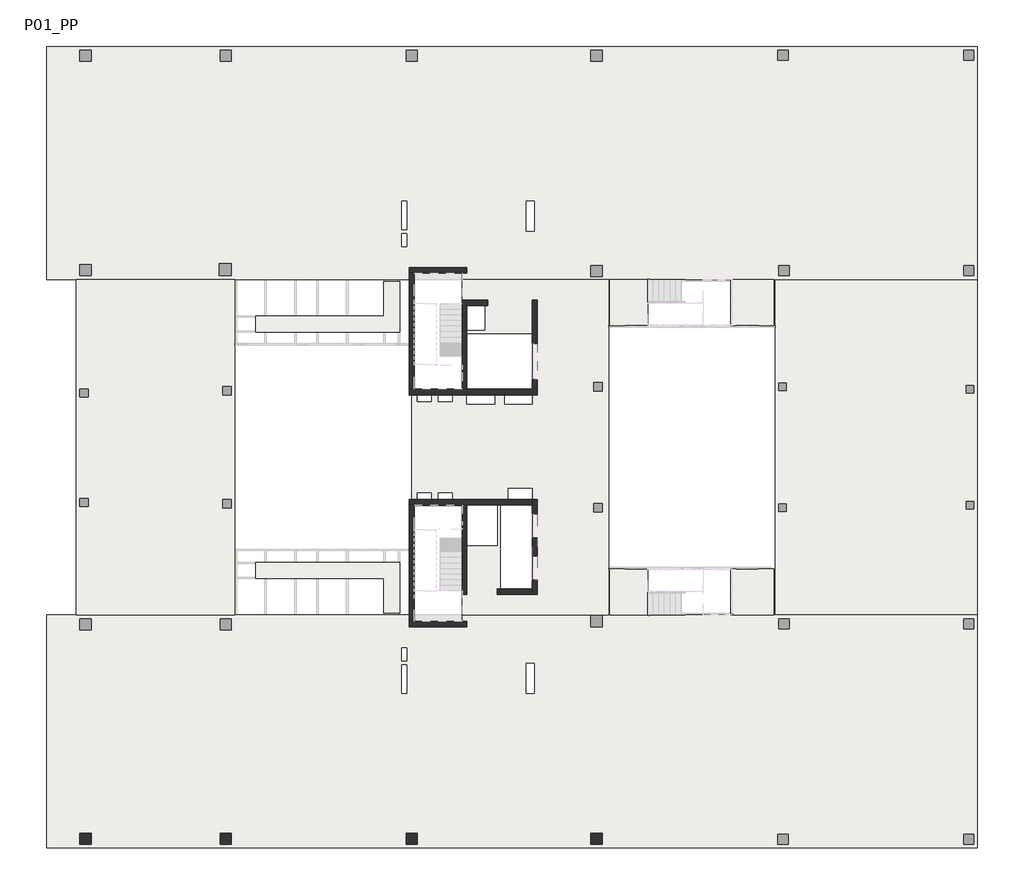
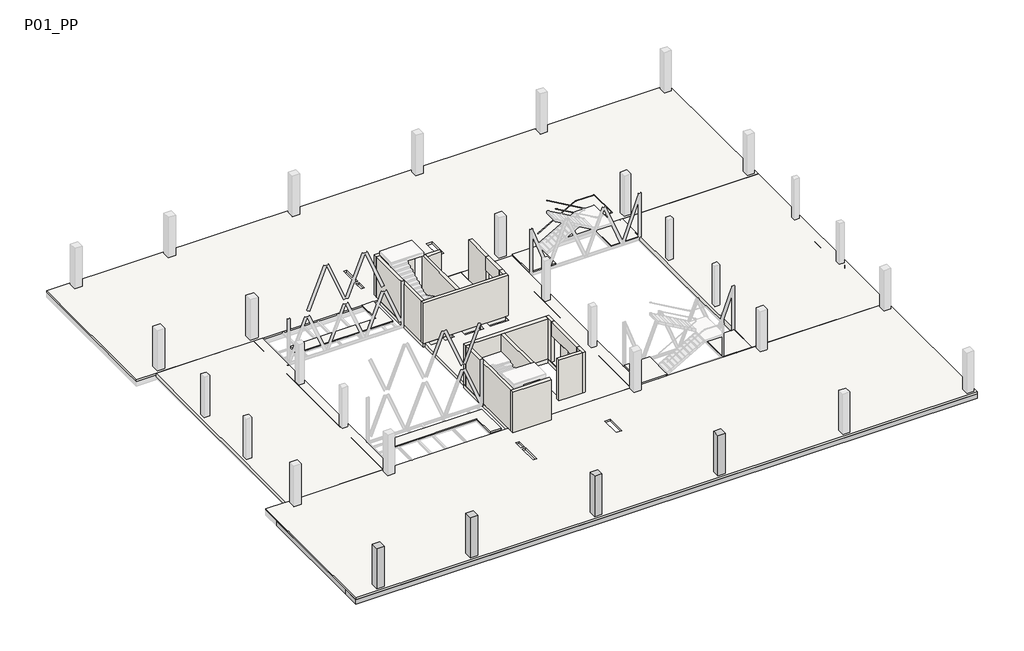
# One storey, part 1 of 8: 17 walls, 9 slabs, 5 beams, 4 columns.
"""IFC4 building model written with IfcOpenShell, lengths in millimetres."""

from ifc_helpers import new_model, si_unit, frame, origin, place, context, project, spatial, polyline, circle_curve, outline, extrude, faceted_brep, element, save
from ifc_brep_helpers import plane_surface, revolved_surface, advanced_brep

model = new_model("IFC4")

# Units and contexts
model_context = context("Model", 3, world=origin())
ifc_project = project(units=[si_unit("LENGTHUNIT", "METRE", prefix="MILLI")], contexts=[model_context])

# Site, building, storey
site = spatial("IfcSite", under=ifc_project)
building = spatial("IfcBuilding", under=site)
storey = spatial("IfcBuildingStorey", under=building, Name="P01_PP", Elevation=11160.0)

# Beams
placement = place(None, origin())
element("IfcBeam", 1, ObjectType="M_Concrete-Rectangular Beam : 1500 x 550mm", at=placement, inside=storey, context=model_context, shape_type="AdvancedBrep", body=[
    advanced_brep(
    [(-33190.2931093, -17110.5871866, 10610.0), (16958.7687297, -17110.5871866, 10610.0), (16958.7687297, -17110.5871866, 11010.0), (-33190.2931093, -17110.5871866, 11010.0), (-33190.2931093, -15610.5871866, 10610.0), (-32490.2931093, -15610.5871866, 10610.0), (-31216.2708024, -15610.5871866, 10610.0), (-30816.2708024, -15610.5871866, 10610.0), (-29549.6041367, -15610.5871866, 10610.0), (-29149.6041367, -15610.5871866, 10610.0), (-27882.9374731, -15610.5871866, 10610.0), (-27482.9374731, -15610.5871866, 10610.0), (-26216.2708089, -15610.5871866, 10610.0), (-25816.2708089, -15610.5871866, 10610.0), (-24549.6041453, -15610.5871866, 10610.0), (-24149.6041453, -15610.5871866, 10610.0), (-22882.9374805, -15610.5871866, 10610.0), (-22482.9374805, -15610.5871866, 10610.0), (-21216.2708168, -15610.5871866, 10610.0), (-20816.2708168, -15610.5871866, 10610.0), (-19549.6041539, -15610.5871866, 10610.0), (-19149.6041539, -15610.5871866, 10610.0), (-17882.9374898, -15610.5871866, 10610.0), (-17482.9374898, -15610.5871866, 10610.0), (-16216.2708252, -15610.5871866, 10610.0), (-15816.2708252, -15610.5871866, 10610.0), (-14549.604161, -15610.5871866, 10610.0), (-14149.604161, -15610.5871866, 10610.0), (-12882.9374977, -15610.5871866, 10610.0), (-12482.9374977, -15610.5871866, 10610.0), (-11216.2708336, -15610.5871866, 10610.0), (-10816.2708336, -15610.5871866, 10610.0), (-9549.6041702, -15610.5871866, 10610.0), (-9149.6041702, -15610.5871866, 10610.0), (-7882.9375051, -15610.5871866, 10610.0), (-7482.9375051, -15610.5871866, 10610.0), (-6216.2708415, -15610.5871866, 10610.0), (-5816.2708415, -15610.5871866, 10610.0), (-4549.6041777, -15610.5871866, 10610.0), (-4149.6041777, -15610.5871866, 10610.0), (-2882.9375136, -15610.5871866, 10610.0), (-2482.9375136, -15610.5871866, 10610.0), (-1216.2708502, -15610.5871866, 10610.0), (-816.2708502, -15610.5871866, 10610.0), (450.3958139, -15610.5871866, 10610.0), (850.3958139, -15610.5871866, 10610.0), (2117.0624776, -15610.5871866, 10610.0), (2517.0624776, -15610.5871866, 10610.0), (3783.7291418, -15610.5871866, 10610.0), (4183.7291418, -15610.5871866, 10610.0), (5450.3958055, -15610.5871866, 10610.0), (5850.3958055, -15610.5871866, 10610.0), (7117.0624701, -15610.5871866, 10610.0), (7517.0624701, -15610.5871866, 10610.0), (8783.7291339, -15610.5871866, 10610.0), (9183.7291339, -15610.5871866, 10610.0), (10450.3957976, -15610.5871866, 10610.0), (10850.3957976, -15610.5871866, 10610.0), (12117.0624618, -15610.5871866, 10610.0), (12517.0624618, -15610.5871866, 10610.0), (13783.7291255, -15610.5871866, 10610.0), (14183.7291255, -15610.5871866, 10610.0), (15458.7687297, -15610.5871866, 10610.0), (16958.7687297, -15610.5871866, 10610.0), (-30790.3343773, -16910.1033985, 10610.0), (-30790.3343787, -16310.1033985, 10610.0), (-31390.3343787, -16310.1033999, 10610.0), (-31390.3343773, -16910.1033999, 10610.0), (-23240.1498563, -16910.1030577, 10610.0), (-23240.1498516, -16260.1030577, 10610.0), (-23890.1498516, -16260.103053, 10610.0), (-23890.1498563, -16910.103053, 10610.0), (-13190.2931113, -16910.586336, 10610.0), (-13190.2931099, -16260.586336, 10610.0), (-13840.2931099, -16260.5863346, 10610.0), (-13840.2931113, -16910.5863346, 10610.0), (-3266.6084959, -16910.5863299, 10610.0), (-3266.608495, -16260.5863299, 10610.0), (-3916.608495, -16260.5863289, 10610.0), (-3916.6084959, -16910.5863289, 10610.0), (16809.540271, -16634.8146303, 10610.0), (16159.540271, -16634.8146303, 10610.0), (6809.6816699, -16635.586362, 10610.0), (6159.6816699, -16635.586362, 10610.0), (-33190.2931093, -15610.5871866, 11010.0), (-32490.2931093, -15610.5871866, 11010.0), (-31216.2708024, -15610.5871866, 11010.0), (-30816.2708024, -15610.5871866, 11010.0), (-29549.6041367, -15610.5871866, 11010.0), (-29149.6041367, -15610.5871866, 11010.0), (-27882.9374731, -15610.5871866, 11010.0), (-27482.9374731, -15610.5871866, 11010.0), (-26216.2708089, -15610.5871866, 11010.0), (-25816.2708089, -15610.5871866, 11010.0), (-24549.6041453, -15610.5871866, 11010.0), (-24149.6041453, -15610.5871866, 11010.0), (-22882.9374805, -15610.5871866, 11010.0), (-22482.9374805, -15610.5871866, 11010.0), (-21216.2708168, -15610.5871866, 11010.0), (-20816.2708168, -15610.5871866, 11010.0), (-19549.6041539, -15610.5871866, 11010.0), (-19149.6041539, -15610.5871866, 11010.0), (-17882.9374898, -15610.5871866, 11010.0), (-17482.9374898, -15610.5871866, 11010.0), (-16216.2708252, -15610.5871866, 11010.0), (-15816.2708252, -15610.5871866, 11010.0), (-14549.604161, -15610.5871866, 11010.0), (-14149.604161, -15610.5871866, 11010.0), (-12882.9374977, -15610.5871866, 11010.0), (-12482.9374977, -15610.5871866, 11010.0), (-11216.2708336, -15610.5871866, 11010.0), (-10816.2708336, -15610.5871866, 11010.0), (-9549.6041702, -15610.5871866, 11010.0), (-9149.6041702, -15610.5871866, 11010.0), (-7882.9375051, -15610.5871866, 11010.0), (-7482.9375051, -15610.5871866, 11010.0), (-6216.2708415, -15610.5871866, 11010.0), (-5816.2708415, -15610.5871866, 11010.0), (-4549.6041777, -15610.5871866, 11010.0), (-4149.6041777, -15610.5871866, 11010.0), (-2882.9375136, -15610.5871866, 11010.0), (-2482.9375136, -15610.5871866, 11010.0), (-1216.2708502, -15610.5871866, 11010.0), (-816.2708502, -15610.5871866, 11010.0), (450.3958139, -15610.5871866, 11010.0), (850.3958139, -15610.5871866, 11010.0), (2117.0624776, -15610.5871866, 11010.0), (2517.0624776, -15610.5871866, 11010.0), (3783.7291418, -15610.5871866, 11010.0), (4183.7291418, -15610.5871866, 11010.0), (5450.3958055, -15610.5871866, 11010.0), (5850.3958055, -15610.5871866, 11010.0), (7117.0624701, -15610.5871866, 11010.0), (7517.0624701, -15610.5871866, 11010.0), (8783.7291339, -15610.5871866, 11010.0), (9183.7291339, -15610.5871866, 11010.0), (10450.3957976, -15610.5871866, 11010.0), (10850.3957976, -15610.5871866, 11010.0), (12117.0624618, -15610.5871866, 11010.0), (12517.0624618, -15610.5871866, 11010.0), (13783.7291255, -15610.5871866, 11010.0), (14183.7291255, -15610.5871866, 11010.0), (15458.7687297, -15610.5871866, 11010.0), (16958.7687297, -15610.5871866, 11010.0), (-30790.3343773, -16910.1033985, 10860.0), (-30790.3343787, -16310.1033985, 10860.0), (-31390.3343773, -16910.1033999, 10860.0), (-31390.3343787, -16310.1033999, 10860.0), (-23240.1498563, -16910.1030577, 10860.0), (-23240.1498516, -16260.1030577, 10860.0), (-23890.1498563, -16910.103053, 10860.0), (-23890.1498516, -16260.103053, 10860.0), (-13190.2931113, -16910.586336, 10860.0), (-13190.2931099, -16260.586336, 10860.0), (-13840.2931113, -16910.5863346, 10860.0), (-13840.2931099, -16260.5863346, 10860.0), (-3266.6084959, -16910.5863299, 10860.0), (-3266.608495, -16260.5863299, 10860.0), (-3916.6084959, -16910.5863289, 10860.0), (-3916.608495, -16260.5863289, 10860.0), (16809.540271, -16634.8146303, 10860.0), (16159.540271, -16634.8146303, 10860.0), (6809.6816699, -16635.586362, 10860.0), (6159.6816699, -16635.586362, 10860.0)],
    [
        (0, 1),
        (1, 2),
        (2, 3),
        (3, 0),
        (0, 4),
        (4, 5),
        (5, 6),
        (6, 7),
        (7, 8),
        (8, 9),
        (9, 10),
        (10, 11),
        (11, 12),
        (12, 13),
        (13, 14),
        (14, 15),
        (15, 16),
        (16, 17),
        (17, 18),
        (18, 19),
        (19, 20),
        (20, 21),
        (21, 22),
        (22, 23),
        (23, 24),
        (24, 25),
        (25, 26),
        (26, 27),
        (27, 28),
        (28, 29),
        (29, 30),
        (30, 31),
        (31, 32),
        (32, 33),
        (33, 34),
        (34, 35),
        (35, 36),
        (36, 37),
        (37, 38),
        (38, 39),
        (39, 40),
        (40, 41),
        (41, 42),
        (42, 43),
        (43, 44),
        (44, 45),
        (45, 46),
        (46, 47),
        (47, 48),
        (48, 49),
        (49, 50),
        (50, 51),
        (51, 52),
        (52, 53),
        (53, 54),
        (54, 55),
        (55, 56),
        (56, 57),
        (57, 58),
        (58, 59),
        (59, 60),
        (60, 61),
        (61, 62),
        (62, 63),
        (63, 1),
        (64, 65),
        (65, 66),
        (66, 67),
        (67, 64),
        (68, 69),
        (69, 70),
        (70, 71),
        (71, 68),
        (72, 73),
        (73, 74),
        (74, 75),
        (75, 72),
        (76, 77),
        (77, 78),
        (78, 79),
        (79, 76),
        (80, 81, circle_curve(frame((16484.540271, -16634.8146303, 10610.0), z_axis=(0.0, 0.0, 1.0), x_axis=(1.0, 0.0, 0.0)), 325.0)),
        (81, 80, circle_curve(frame((16484.540271, -16634.8146303, 10610.0), z_axis=(0.0, 0.0, 1.0), x_axis=(1.0, 0.0, 0.0)), 325.0)),
        (82, 83, circle_curve(frame((6484.6816699, -16635.586362, 10610.0), z_axis=(0.0, 0.0, 1.0), x_axis=(1.0, 0.0, 0.0)), 325.0)),
        (83, 82, circle_curve(frame((6484.6816699, -16635.586362, 10610.0), z_axis=(0.0, 0.0, 1.0), x_axis=(1.0, 0.0, 0.0)), 325.0)),
        (4, 84),
        (84, 85),
        (85, 86),
        (86, 87),
        (87, 88),
        (88, 89),
        (89, 90),
        (90, 91),
        (91, 92),
        (92, 93),
        (93, 94),
        (94, 95),
        (95, 96),
        (96, 97),
        (97, 98),
        (98, 99),
        (99, 100),
        (100, 101),
        (101, 102),
        (102, 103),
        (103, 104),
        (104, 105),
        (105, 106),
        (106, 107),
        (107, 108),
        (108, 109),
        (109, 110),
        (110, 111),
        (111, 112),
        (112, 113),
        (113, 114),
        (114, 115),
        (115, 116),
        (116, 117),
        (117, 118),
        (118, 119),
        (119, 120),
        (120, 121),
        (121, 122),
        (122, 123),
        (123, 124),
        (124, 125),
        (125, 126),
        (126, 127),
        (127, 128),
        (128, 129),
        (129, 130),
        (130, 131),
        (131, 132),
        (132, 133),
        (133, 134),
        (134, 135),
        (135, 136),
        (136, 137),
        (137, 138),
        (138, 139),
        (139, 140),
        (140, 141),
        (141, 142),
        (142, 143),
        (143, 63),
        (3, 84),
        (143, 2),
        (144, 145),
        (145, 65),
        (64, 144),
        (146, 144),
        (67, 146),
        (147, 146),
        (66, 147),
        (145, 147),
        (148, 149),
        (149, 69),
        (68, 148),
        (150, 148),
        (71, 150),
        (151, 150),
        (70, 151),
        (149, 151),
        (152, 153),
        (153, 73),
        (72, 152),
        (154, 152),
        (75, 154),
        (155, 154),
        (74, 155),
        (153, 155),
        (156, 157),
        (157, 77),
        (76, 156),
        (158, 156),
        (79, 158),
        (159, 158),
        (78, 159),
        (157, 159),
        (160, 161, circle_curve(frame((16484.540271, -16634.8146303, 10860.0), z_axis=(0.0, 0.0, 1.0), x_axis=(1.0, 0.0, 0.0)), 325.0)),
        (161, 81),
        (80, 160),
        (161, 160, circle_curve(frame((16484.540271, -16634.8146303, 10860.0), z_axis=(0.0, 0.0, 1.0), x_axis=(1.0, 0.0, 0.0)), 325.0)),
        (162, 163, circle_curve(frame((6484.6816699, -16635.586362, 10860.0), z_axis=(0.0, 0.0, 1.0), x_axis=(1.0, 0.0, 0.0)), 325.0)),
        (163, 83),
        (82, 162),
        (163, 162, circle_curve(frame((6484.6816699, -16635.586362, 10860.0), z_axis=(0.0, 0.0, 1.0), x_axis=(1.0, 0.0, 0.0)), 325.0)),
    ],
    [
        plane_surface(frame((-32477.5931093, -17110.5871866, 10885.0), z_axis=(0.0, -1.0, 0.0), x_axis=(0.0, 0.0, -1.0))),
        plane_surface(frame((-32477.5931093, -16360.5871866, 10610.0), z_axis=(0.0, 0.0, -1.0), x_axis=(0.0, 1.0, 0.0))),
        plane_surface(frame((-32477.5931093, -15610.5871866, 10885.0), z_axis=(0.0, 1.0, 0.0), x_axis=(0.0, 0.0, 1.0))),
        plane_surface(frame((-33190.2931093, -17134.5162702, 11160.0), z_axis=(-1.0, 0.0, 0.0), x_axis=(0.0, 1.0, 0.0))),
        plane_surface(frame((16958.7687297, -17134.5162702, 10610.0), z_axis=(1.0, 0.0, 0.0), x_axis=(0.0, 1.0, 0.0))),
        plane_surface(frame((-30790.3343773, -16910.1033985, 10860.0), z_axis=(-1.0, -2.3624454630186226e-09, 0.0), x_axis=(0.0, 0.0, -1.0))),
        plane_surface(frame((-31390.3343773, -16910.1033999, 10860.0), z_axis=(-2.3624454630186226e-09, 1.0, 0.0), x_axis=(0.0, 0.0, -1.0))),
        plane_surface(frame((-31390.3343787, -16310.1033999, 10860.0), z_axis=(1.0, 2.3624454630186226e-09, 0.0), x_axis=(0.0, 0.0, -1.0))),
        plane_surface(frame((-30790.3343787, -16310.1033985, 10860.0), z_axis=(2.3624454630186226e-09, -1.0, 0.0), x_axis=(0.0, 0.0, -1.0))),
        plane_surface(frame((-31390.3343787, -16310.1033999, 10860.0), z_axis=(0.0, 0.0, -1.0), x_axis=(-1.0, -2.3624454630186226e-09, 0.0))),
        plane_surface(frame((-23240.1498563, -16910.1030577, 10860.0), z_axis=(-1.0, 7.189467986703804e-09, 0.0), x_axis=(0.0, 0.0, -1.0))),
        plane_surface(frame((-23890.1498563, -16910.103053, 10860.0), z_axis=(7.189467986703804e-09, 1.0, 0.0), x_axis=(0.0, 0.0, -1.0))),
        plane_surface(frame((-23890.1498516, -16260.103053, 10860.0), z_axis=(1.0, -7.189467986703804e-09, 0.0), x_axis=(0.0, 0.0, -1.0))),
        plane_surface(frame((-23240.1498516, -16260.1030577, 10860.0), z_axis=(-7.189467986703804e-09, -1.0, 0.0), x_axis=(0.0, 0.0, -1.0))),
        plane_surface(frame((-23890.1498516, -16260.103053, 10860.0), z_axis=(0.0, 0.0, -1.0), x_axis=(-1.0, 7.189467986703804e-09, 0.0))),
        plane_surface(frame((-13190.2931113, -16910.586336, 10860.0), z_axis=(-1.0, 2.1746603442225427e-09, 0.0), x_axis=(0.0, 0.0, -1.0))),
        plane_surface(frame((-13840.2931113, -16910.5863346, 10860.0), z_axis=(2.1746603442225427e-09, 1.0, 0.0), x_axis=(0.0, 0.0, -1.0))),
        plane_surface(frame((-13840.2931099, -16260.5863346, 10860.0), z_axis=(1.0, -2.1746603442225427e-09, 0.0), x_axis=(0.0, 0.0, -1.0))),
        plane_surface(frame((-13190.2931099, -16260.586336, 10860.0), z_axis=(-2.1746603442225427e-09, -1.0, 0.0), x_axis=(0.0, 0.0, -1.0))),
        plane_surface(frame((-13840.2931099, -16260.5863346, 10860.0), z_axis=(0.0, 0.0, -1.0), x_axis=(-1.0, 2.1746603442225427e-09, 0.0))),
        plane_surface(frame((-3266.6084959, -16910.5863299, 10860.0), z_axis=(-1.0, 1.4583820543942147e-09, 0.0), x_axis=(0.0, 0.0, -1.0))),
        plane_surface(frame((-3916.6084959, -16910.5863289, 10860.0), z_axis=(1.4583820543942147e-09, 1.0, 0.0), x_axis=(0.0, 0.0, -1.0))),
        plane_surface(frame((-3916.608495, -16260.5863289, 10860.0), z_axis=(1.0, -1.4583820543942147e-09, 0.0), x_axis=(0.0, 0.0, -1.0))),
        plane_surface(frame((-3266.608495, -16260.5863299, 10860.0), z_axis=(-1.4583820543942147e-09, -1.0, 0.0), x_axis=(0.0, 0.0, -1.0))),
        plane_surface(frame((-3916.608495, -16260.5863289, 10860.0), z_axis=(0.0, 0.0, -1.0), x_axis=(-1.0, 1.4583820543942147e-09, 0.0))),
        revolved_surface(polyline([(16809.540271, -16634.8146303, 10860.0), (16809.540271, -16634.8146303, 10610.0)]), (16484.540271, -16634.8146303, 5480.0), (0.0, 0.0, 1.0)),
        plane_surface(frame((16809.540271, -16634.8146303, 10860.0), z_axis=(0.0, 0.0, -1.0), x_axis=(0.0, 1.0, 0.0))),
        revolved_surface(polyline([(6809.6816699, -16635.586362, 10860.0), (6809.6816699, -16635.586362, 10610.0)]), (6484.6816699, -16635.586362, 5480.0), (0.0, 0.0, 1.0)),
        plane_surface(frame((6809.6816699, -16635.586362, 10860.0), z_axis=(0.0, 0.0, -1.0), x_axis=(0.0, 1.0, 0.0))),
        plane_surface(frame((-33190.2931093, -4560.5861796, 11010.0), z_axis=(0.0, 0.0, 1.0), x_axis=(0.0, 1.0, 0.0))),
    ],
    [
        (0, [[1, 2, 3, 4]]),
        (1, [[5, 6, 7, 8, 9, 10, 11, 12, 13, 14, 15, 16, 17, 18, 19, 20, 21, 22, 23, 24, 25, 26, 27, 28, 29, 30, 31, 32, 33, 34, 35, 36, 37, 38, 39, 40, 41, 42, 43, 44, 45, 46, 47, 48, 49, 50, 51, 52, 53, 54, 55, 56, 57, 58, 59, 60, 61, 62, 63, 64, 65, -1], [66, 67, 68, 69], [70, 71, 72, 73], [74, 75, 76, 77], [78, 79, 80, 81], [82, 83], [84, 85]]),
        (2, [[-64, -63, -62, -61, -60, -59, -58, -57, -56, -55, -54, -53, -52, -51, -50, -49, -48, -47, -46, -45, -44, -43, -42, -41, -40, -39, -38, -37, -36, -35, -34, -33, -32, -31, -30, -29, -28, -27, -26, -25, -24, -23, -22, -21, -20, -19, -18, -17, -16, -15, -14, -13, -12, -11, -10, -9, -8, -7, -6, 86, 87, 88, 89, 90, 91, 92, 93, 94, 95, 96, 97, 98, 99, 100, 101, 102, 103, 104, 105, 106, 107, 108, 109, 110, 111, 112, 113, 114, 115, 116, 117, 118, 119, 120, 121, 122, 123, 124, 125, 126, 127, 128, 129, 130, 131, 132, 133, 134, 135, 136, 137, 138, 139, 140, 141, 142, 143, 144, 145, 146]]),
        (3, [[-5, -4, 147, -86]]),
        (4, [[-65, -146, 148, -2]]),
        (5, [[149, 150, -66, 151]]),
        (6, [[152, -151, -69, 153]]),
        (7, [[154, -153, -68, 155]]),
        (8, [[156, -155, -67, -150]]),
        (9, [[-149, -152, -154, -156]]),
        (10, [[157, 158, -70, 159]]),
        (11, [[160, -159, -73, 161]]),
        (12, [[162, -161, -72, 163]]),
        (13, [[164, -163, -71, -158]]),
        (14, [[-157, -160, -162, -164]]),
        (15, [[165, 166, -74, 167]]),
        (16, [[168, -167, -77, 169]]),
        (17, [[170, -169, -76, 171]]),
        (18, [[172, -171, -75, -166]]),
        (19, [[-165, -168, -170, -172]]),
        (20, [[173, 174, -78, 175]]),
        (21, [[176, -175, -81, 177]]),
        (22, [[178, -177, -80, 179]]),
        (23, [[180, -179, -79, -174]]),
        (24, [[-173, -176, -178, -180]]),
        (25, [[181, 182, -82, 183]]),
        (25, [[184, -183, -83, -182]]),
        (26, [[-181, -184]]),
        (27, [[185, 186, -84, 187]]),
        (27, [[188, -187, -85, -186]]),
        (28, [[-185, -188]]),
        (29, [[-3, -148, -145, -144, -143, -142, -141, -140, -139, -138, -137, -136, -135, -134, -133, -132, -131, -130, -129, -128, -127, -126, -125, -124, -123, -122, -121, -120, -119, -118, -117, -116, -115, -114, -113, -112, -111, -110, -109, -108, -107, -106, -105, -104, -103, -102, -101, -100, -99, -98, -97, -96, -95, -94, -93, -92, -91, -90, -89, -88, -87, -147]]),
    ],
),
])
element("IfcBeam", 2, ObjectType="M_Concrete-Rectangular Beam : 400 x 550mm", at=placement, inside=storey, context=model_context, shape_type="SweptSolid", body=[
    extrude(outline(polyline([(-30816.2708024, -15610.5871866), (-31216.2708024, -15610.5871866), (-31216.2708024, -6060.5861501), (-30816.2708024, -6060.5861501), (-30816.2708024, -15610.5871866)])), frame((0.0, 0.0, 10610.0), z_axis=(0.0, 0.0, 1.0), x_axis=(1.0, 0.0, 0.0)), (0.0, 0.0, 1.0), 400.0),
])
element("IfcBeam", 3, ObjectType="M_Concrete-Rectangular Beam : 400 x 550mm", at=placement, inside=storey, context=model_context, shape_type="SweptSolid", body=[
    extrude(outline(polyline([(-29149.6041367, -15610.5871866), (-29549.6041367, -15610.5871866), (-29549.6041367, -6060.5861501), (-29149.6041367, -6060.5861501), (-29149.6041367, -15610.5871866)])), frame((0.0, 0.0, 10610.0), z_axis=(0.0, 0.0, 1.0), x_axis=(1.0, 0.0, 0.0)), (0.0, 0.0, 1.0), 400.0),
])
element("IfcBeam", 4, ObjectType="M_Concrete-Rectangular Beam : 400 x 550mm", at=placement, inside=storey, context=model_context, shape_type="SweptSolid", body=[
    extrude(outline(polyline([(-27482.9374731, -15610.5871866), (-27882.9374731, -15610.5871866), (-27882.9374731, -6060.5861501), (-27482.9374731, -6060.5861501), (-27482.9374731, -15610.5871866)])), frame((0.0, 0.0, 10610.0), z_axis=(0.0, 0.0, 1.0), x_axis=(1.0, 0.0, 0.0)), (0.0, 0.0, 1.0), 400.0),
])
element("IfcBeam", 5, ObjectType="M_Concrete-Rectangular Beam : 700 x 550mm", at=placement, inside=storey, context=model_context, shape_type="SweptSolid", body=[
    extrude(outline(polyline([(-32490.2931093, -15610.5871866), (-33190.2931093, -15610.5871866), (-33190.2931093, -6060.5861501), (-32490.2931093, -6060.5861501), (-32490.2931093, -15610.5871866)])), frame((0.0, 0.0, 10610.0), z_axis=(0.0, 0.0, 1.0), x_axis=(1.0, 0.0, 0.0)), (0.0, 0.0, 1.0), 400.0),
])

# Columns
element("IfcColumn", 6, ObjectType="Concrete-Rectangular-Column : Pilar_Rectangular-Formigo-600x600", at=placement, inside=storey, context=model_context, shape_type="Brep", body=[
    faceted_brep([(-3266.6368921, -16310.5866626, 11160.0), (-3266.6368922, -16910.5866626, 11160.0), (-3866.6368922, -16910.5866625, 11160.0), (-3866.6368921, -16310.5866625, 11160.0), (-3266.6368921, -16310.5866626, 14610.0), (-3266.6368922, -16910.5866626, 14610.0), (-3266.6368922, -16910.5866626, 14360.0), (-3266.6368921, -16310.5866626, 14360.0), (-3866.6368922, -16910.5866625, 14610.0), (-3866.6368922, -16910.5866625, 14360.0), (-3866.6368921, -16310.5866625, 14610.0), (-3866.6368921, -16310.5866625, 14360.0)], [[[0, 1, 2, 3]], [[4, 5, 6, 1, 0, 7]], [[5, 8, 9, 2, 1, 6]], [[8, 10, 11, 3, 2, 9]], [[10, 4, 7, 0, 3, 11]], [[4, 10, 8, 5]]]),
])
element("IfcColumn", 7, ObjectType="Concrete-Rectangular-Column : Pilar_Rectangular-Formigo-600x600", at=placement, inside=storey, context=model_context, shape_type="Brep", body=[
    faceted_brep([(-13216.1844595, -16310.5866726, 11160.0), (-13216.1844603, -16910.5866726, 11160.0), (-13816.1844603, -16910.5866718, 11160.0), (-13816.1844595, -16310.5866718, 11160.0), (-13216.1844595, -16310.5866726, 14610.0), (-13216.1844603, -16910.5866726, 14610.0), (-13216.1844603, -16910.5866726, 14360.0), (-13216.1844595, -16310.5866726, 14360.0), (-13816.1844603, -16910.5866718, 14610.0), (-13816.1844603, -16910.5866718, 14360.0), (-13816.1844595, -16310.5866718, 14610.0), (-13816.1844595, -16310.5866718, 14360.0)], [[[0, 1, 2, 3]], [[4, 5, 6, 1, 0, 7]], [[5, 8, 9, 2, 1, 6]], [[8, 10, 11, 3, 2, 9]], [[10, 4, 7, 0, 3, 11]], [[4, 10, 8, 5]]]),
])
element("IfcColumn", 8, ObjectType="Concrete-Rectangular-Column : Pilar_Rectangular-Formigo-600x600", at=placement, inside=storey, context=model_context, shape_type="Brep", body=[
    faceted_brep([(-23241.0442945, -16310.586383, 11160.0), (-23241.0442946, -16910.586383, 11160.0), (-23841.0442946, -16910.5863829, 11160.0), (-23841.0442945, -16310.5863829, 11160.0), (-23241.0442945, -16310.586383, 14610.0), (-23241.0442946, -16910.586383, 14610.0), (-23241.0442946, -16910.586383, 14360.0), (-23241.0442945, -16310.586383, 14360.0), (-23841.0442946, -16910.5863829, 14610.0), (-23841.0442946, -16910.5863829, 14360.0), (-23841.0442945, -16310.5863829, 14610.0), (-23841.0442945, -16310.5863829, 14360.0)], [[[0, 1, 2, 3]], [[4, 5, 6, 1, 0, 7]], [[5, 8, 9, 2, 1, 6]], [[8, 10, 11, 3, 2, 9]], [[10, 4, 7, 0, 3, 11]], [[4, 10, 8, 5]]]),
])
element("IfcColumn", 9, ObjectType="Concrete-Rectangular-Column : Pilar_Rectangular-Formigo-600x600", at=placement, inside=storey, context=model_context, shape_type="Brep", body=[
    faceted_brep([(-30791.1796617, -16310.5871989, 11160.0), (-30791.1796641, -16910.5871989, 11160.0), (-31391.1796641, -16910.5871965, 11160.0), (-31391.1796617, -16310.5871965, 11160.0), (-30791.1796617, -16310.5871989, 14610.0), (-30791.1796641, -16910.5871989, 14610.0), (-30791.1796641, -16910.5871989, 14360.0), (-30791.1796617, -16310.5871989, 14360.0), (-31391.1796641, -16910.5871965, 14610.0), (-31391.1796641, -16910.5871965, 14360.0), (-31391.1796617, -16310.5871965, 14610.0), (-31391.1796617, -16310.5871965, 14360.0)], [[[0, 1, 2, 3]], [[4, 5, 6, 1, 0, 7]], [[5, 8, 9, 2, 1, 6]], [[8, 10, 11, 3, 2, 9]], [[10, 4, 7, 0, 3, 11]], [[4, 10, 8, 5]]]),
])

# Slabs
element("IfcSlab", 10, ObjectType="Forjat_Llosa-Formigo-400", at=placement, inside=storey, context=model_context, shape_type="SweptSolid", body=[
    extrude(outline(polyline([(16958.7687242, 13539.4134388), (16958.7687242, -4560.5861502), (6058.8308521, -4560.5861502), (6058.8308521, 13539.4134388), (16958.7687242, 13539.4134388)])), frame((0.0, 0.0, 10760.0), z_axis=(0.0, 0.0, 1.0), x_axis=(1.0, 0.0, 0.0)), (0.0, 0.0, 1.0), 400.0),
])
element("IfcSlab", 11, ObjectType="Forjat_Llosa-Formigo-150", at=placement, inside=storey, context=model_context, shape_type="Brep", body=[
    faceted_brep([(-33190.2931069, 13539.4134446, 11010.0), (-33190.2931069, 26089.4134445, 11010.0), (16958.7655213, 26089.4134445, 11010.0), (16958.7655213, 13539.4134371, 11010.0), (-10790.2146087, 13539.4134413, 11010.0), (-10790.2146087, 13864.8960677, 11010.0), (-13390.3216429, 13864.8960677, 11010.0), (-13390.3216429, 13539.4134417, 11010.0), (-7355.3596943, 17755.5003122, 11010.0), (-7355.3596935, 16143.9281337, 11010.0), (-6905.3202486, 16143.9281335, 11010.0), (-6905.3202496, 17755.5003116, 11010.0), (-13795.316559, 16015.6292353, 11010.0), (-14045.3165543, 16015.6292358, 11010.0), (-14045.3165545, 15315.6292377, 11010.0), (-13795.3165589, 15315.629238, 11010.0), (-13795.3165592, 17754.0479176, 11010.0), (-14045.3165588, 17754.0479187, 11010.0), (-14045.3165585, 16215.6292373, 11010.0), (-13795.316559, 16215.629237, 11010.0), (-33190.2931069, 26089.4134445, 11160.0), (-33190.2931069, 13539.4134446, 11160.0), (-31591.2267916, 13539.4134444, 11160.0), (-30891.2267916, 13539.4134443, 11160.0), (-23741.1819308, 13539.4134432, 11160.0), (-23041.1819308, 13539.4134431, 11160.0), (-13390.3216429, 13539.4134417, 11160.0), (-13390.3216429, 13864.8960677, 11160.0), (-10790.2146087, 13864.8960677, 11160.0), (-10790.2146087, 13539.4134413, 11160.0), (-7015.3241677, 13539.4134407, 11160.0), (-6715.3241677, 13539.4134407, 11160.0), (-3763.6343046, 13539.4134402, 11160.0), (-2913.6343046, 13539.4134401, 11160.0), (6058.8308521, 13539.4134388, 11160.0), (6758.8308521, 13539.4134387, 11160.0), (16258.7687242, 13539.4134372, 11160.0), (16958.7655213, 13539.4134371, 11160.0), (16958.7655213, 26089.4134445, 11160.0), (-7355.3596935, 16143.9281337, 11160.0), (-7355.3596943, 17755.5003122, 11160.0), (-6905.3202496, 17755.5003116, 11160.0), (-6905.3202486, 16143.9281335, 11160.0), (-14045.3165543, 16015.6292358, 11160.0), (-13795.316559, 16015.6292353, 11160.0), (-13795.3165589, 15315.629238, 11160.0), (-14045.3165545, 15315.6292377, 11160.0), (-14045.3165588, 17754.0479187, 11160.0), (-13795.3165592, 17754.0479176, 11160.0), (-13795.316559, 16215.629237, 11160.0), (-14045.3165585, 16215.6292373, 11160.0)], [[[0, 1, 2, 3, 4, 5, 6, 7], [8, 9, 10, 11], [12, 13, 14, 15], [16, 17, 18, 19]], [[20, 21, 22, 23, 24, 25, 26, 27, 28, 29, 30, 31, 32, 33, 34, 35, 36, 37, 38], [39, 40, 41, 42], [43, 44, 45, 46], [47, 48, 49, 50]], [[1, 0, 21, 20]], [[2, 1, 20, 38]], [[3, 37, 36, 35, 34, 33, 32, 31, 30, 29, 4]], [[21, 0, 7, 26, 25, 24, 23, 22]], [[3, 2, 38, 37]], [[5, 28, 27, 6]], [[6, 27, 26, 7]], [[28, 5, 4, 29]], [[8, 40, 39, 9]], [[9, 39, 42, 10]], [[10, 42, 41, 11]], [[40, 8, 11, 41]], [[12, 44, 43, 13]], [[13, 43, 46, 14]], [[14, 46, 45, 15]], [[44, 12, 15, 45]], [[16, 48, 47, 17]], [[17, 47, 50, 18]], [[18, 50, 49, 19]], [[48, 16, 19, 49]]]),
    faceted_brep([(-33190.2931093, -17110.587189, 11010.0), (-33190.2931093, -15610.5871866, 11010.0), (-33190.2931093, -6060.5861501, 11010.0), (-33190.2931093, -4560.5861796, 11010.0), (-13390.3216429, -4560.5861678, 11010.0), (-13390.3216429, -4885.1039312, 11010.0), (-10790.2146087, -4885.1039312, 11010.0), (-10790.2146087, -4560.5861663, 11010.0), (15458.7687297, -4560.5861507, 11010.0), (16958.7655213, -4560.5861498, 11010.0), (16958.7655213, -17110.587189, 11010.0), (-7355.3596943, -8775.7081757, 11010.0), (-6905.3202496, -8775.7081751, 11010.0), (-6905.3202486, -7164.135997, 11010.0), (-7355.3596935, -7164.1359972, 11010.0), (-13795.316559, -7035.8370988, 11010.0), (-13795.3165589, -6335.8371015, 11010.0), (-14045.3165545, -6335.8371012, 11010.0), (-14045.3165543, -7035.8370994, 11010.0), (-13795.3165592, -8774.2557811, 11010.0), (-13795.316559, -7235.8371005, 11010.0), (-14045.3165585, -7235.8371008, 11010.0), (-14045.3165588, -8774.2557822, 11010.0), (-33190.2931093, -4560.5861796, 11160.0), (-33190.2931093, -17110.587189, 11160.0), (16958.7655213, -17110.587189, 11160.0), (16958.7655213, -4560.5861498, 11160.0), (16258.7687242, -4560.5861502, 11160.0), (6758.8308521, -4560.5861559, 11160.0), (6058.8308521, -4560.5861563, 11160.0), (-2913.6343046, -4560.5861616, 11160.0), (-3763.6343046, -4560.5861621, 11160.0), (-6715.3241677, -4560.5861639, 11160.0), (-7015.3241677, -4560.586164, 11160.0), (-10790.2146087, -4560.5861663, 11160.0), (-10790.2146087, -4885.1039312, 11160.0), (-13390.3216429, -4885.1039312, 11160.0), (-13390.3216429, -4560.5861678, 11160.0), (-23041.1819308, -4560.5861736, 11160.0), (-23741.1819308, -4560.586174, 11160.0), (-30891.2267916, -4560.5861782, 11160.0), (-31591.2267916, -4560.5861786, 11160.0), (-6905.3202496, -8775.7081751, 11160.0), (-7355.3596943, -8775.7081757, 11160.0), (-7355.3596935, -7164.1359972, 11160.0), (-6905.3202486, -7164.135997, 11160.0), (-13795.3165589, -6335.8371015, 11160.0), (-13795.316559, -7035.8370988, 11160.0), (-14045.3165543, -7035.8370994, 11160.0), (-14045.3165545, -6335.8371012, 11160.0), (-13795.316559, -7235.8371005, 11160.0), (-13795.3165592, -8774.2557811, 11160.0), (-14045.3165588, -8774.2557822, 11160.0), (-14045.3165585, -7235.8371008, 11160.0)], [[[0, 1, 2, 3, 4, 5, 6, 7, 8, 9, 10], [11, 12, 13, 14], [15, 16, 17, 18], [19, 20, 21, 22]], [[23, 24, 25, 26, 27, 28, 29, 30, 31, 32, 33, 34, 35, 36, 37, 38, 39, 40, 41], [42, 43, 44, 45], [46, 47, 48, 49], [50, 51, 52, 53]], [[3, 2, 1, 0, 24, 23]], [[10, 9, 26, 25]], [[0, 10, 25, 24]], [[3, 23, 41, 40, 39, 38, 37, 4]], [[26, 9, 8, 7, 34, 33, 32, 31, 30, 29, 28, 27]], [[6, 35, 34, 7]], [[36, 5, 4, 37]], [[35, 6, 5, 36]], [[11, 43, 42, 12]], [[12, 42, 45, 13]], [[13, 45, 44, 14]], [[43, 11, 14, 44]], [[15, 47, 46, 16]], [[16, 46, 49, 17]], [[17, 49, 48, 18]], [[47, 15, 18, 48]], [[19, 51, 50, 20]], [[20, 50, 53, 21]], [[21, 53, 52, 22]], [[51, 19, 22, 52]]]),
])
element("IfcSlab", 12, ObjectType="Forjat_Llosa-Formigo-300", at=placement, inside=storey, context=model_context, shape_type="SweptSolid", body=[
    extrude(outline(polyline([(-23041.1819312, -4560.5856225), (-31591.2267916, -4560.5846583), (-31591.2267908, 13539.4149366), (-23041.1819308, 13539.4139725), (-23041.1819312, -4560.5856225)])), frame((0.0, 0.0, 10860.0), z_axis=(0.0, 0.0, 1.0), x_axis=(1.0, 0.0, 0.0)), (0.0, 0.0, 1.0), 300.0),
    extrude(outline(polyline([(-2913.637503, 13539.4134401), (-2913.6375057, -4560.5861616), (-10790.2146087, -4560.5861663), (-10790.2146087, 1364.8960692), (-13390.3216429, 1364.8960692), (-13390.3216429, -4560.5861678), (-13640.3216429, -4560.586168), (-13640.3216429, 1664.8960692), (-13515.3216429, 1664.8960692), (-13515.3216426, 7314.8960673), (-13640.3216429, 7314.8960673), (-13640.3216429, 13539.4134417), (-13390.3216429, 13539.4134417), (-13390.3216429, 7614.8960673), (-10790.2146087, 7614.8960673), (-10790.2146087, 13539.4134413), (-2913.637503, 13539.4134401)]), holes=[polyline([(-8915.3273673, -795.1004405), (-8915.3273673, 1364.8960692), (-10540.2146087, 1364.8960692), (-10540.2146087, -795.1004405), (-8915.3273673, -795.1004405)]), polyline([(-7015.32737, -3135.1012912), (-7015.32737, 1364.8960692), (-8715.3273692, 1364.8960692), (-8715.3273692, -3135.1012912), (-7015.32737, -3135.1012912)]), polyline([(-7015.3216444, 10594.8839421), (-10540.2146087, 10594.8839421), (-10540.2146087, 7614.8960673), (-7015.3216444, 7614.8960673), (-7015.3216444, 10594.8839421)]), polyline([(-9575.3241515, 12114.8934277), (-10540.2146087, 12114.8934277), (-10540.2146087, 10794.8973525), (-9575.3241515, 10794.8973525), (-9575.3241515, 12114.8934277)]), polyline([(-12465.3183759, 6964.8891848), (-12465.3183704, 7314.8960673), (-13215.3183723, 7314.8960673), (-13215.3183768, 6964.8891841), (-12465.3183759, 6964.8891848)]), polyline([(-12090.3183694, 6964.8891882), (-11340.3183722, 6964.8891882), (-11340.3183685, 7314.8960673), (-12090.3183704, 7314.8960673), (-12090.3183694, 6964.8891882)]), polyline([(-12465.317339, 2014.8973051), (-13215.3183744, 2014.8973051), (-13215.3183744, 1664.8968204), (-12465.317339, 1664.8968204), (-12465.317339, 2014.8973051)]), polyline([(-11340.3173363, 2014.8973051), (-12090.3183821, 2014.8973051), (-12090.3183821, 1664.8968204), (-11340.3173363, 1664.8968204), (-11340.3173363, 2014.8973051)]), polyline([(-9040.3216312, 7314.8929869), (-10540.3361965, 7314.8929869), (-10540.3361965, 6814.888132), (-9040.3216312, 6814.888132), (-9040.3216312, 7314.8929869)]), polyline([(-7015.3241584, 7314.892988), (-8515.3387237, 7314.892988), (-8515.3387237, 6814.888133), (-7015.3241584, 6814.888133), (-7015.3241584, 7314.892988)]), polyline([(-8315.7699766, 2265.1321802), (-8315.7699766, 1665.132189), (-7015.7699752, 1665.132189), (-7015.7699752, 2265.1321802), (-8315.7699766, 2265.1321802)])]), frame((0.0, 0.0, 10860.0), z_axis=(0.0, 0.0, 1.0), x_axis=(1.0, 0.0, 0.0)), (0.0, 0.0, 1.0), 300.0),
])
element("IfcSlab", 13, ObjectType="Forjat_Llosa-Relliga-100", at=placement, inside=storey, context=model_context, shape_type="SweptSolid", body=[
    extrude(outline(polyline([(-21915.4459309, -2583.0874625), (-21915.4459314, -1728.0871839), (-14149.4459331, -1728.0871839), (-14149.4459331, -4439.621344), (-15031.4459326, -4439.621344), (-15031.4459326, -2583.0874625), (-21915.4459309, -2583.0874625)])), frame((0.0, 0.0, 11160.0), z_axis=(0.0, 0.0, 1.0), x_axis=(1.0, 0.0, 0.0)), (0.0, 0.0, 1.0), 100.0),
])
element("IfcSlab", 14, ObjectType="Forjat_Llosa-Xapa-100", at=placement, inside=storey, context=model_context, shape_type="SweptSolid", body=[
    extrude(outline(polyline([(-801.4958562, -2074.8320071), (-801.4958562, -4559.6213034), (-2861.4958562, -4559.6213037), (-2861.4958562, -2074.8320713), (-801.4958562, -2074.8320071)])), frame((0.0, 0.0, 11160.0), z_axis=(0.0, 0.0, 1.0), x_axis=(1.0, 0.0, 0.0)), (0.0, 0.0, 1.0), 100.0),
])
element("IfcSlab", 15, ObjectType="Forjat_Llosa-Relliga-100", at=placement, inside=storey, context=model_context, shape_type="SweptSolid", body=[
    extrude(outline(polyline([(-21915.4459309, 11562.8793206), (-15031.4459326, 11562.8793206), (-15031.4459326, 13419.4132021), (-14149.4459331, 13419.4132021), (-14149.4459331, 10707.879042), (-21915.4459314, 10707.879042), (-21915.4459309, 11562.8793206)])), frame((0.0, 0.0, 11160.0), z_axis=(0.0, 0.0, 1.0), x_axis=(1.0, 0.0, 0.0)), (0.0, 0.0, 1.0), 100.0),
])
element("IfcSlab", 16, ObjectType="Forjat_Llosa-Relliga-30", at=placement, inside=storey, context=model_context, shape_type="SweptSolid", body=[
    extrude(outline(polyline([(5988.4982336, -4559.6213024), (3664.2873994, -4559.6213028), (3664.2873994, -2074.8318679), (5988.4982342, -2074.8317954), (5988.4982336, -4559.6213024)])), frame((0.0, 0.0, 11160.0), z_axis=(0.0, 0.0, 1.0), x_axis=(1.0, 0.0, 0.0)), (0.0, 0.0, 1.0), 30.0),
])
element("IfcSlab", 17, ObjectType="Forjat_Llosa-Relliga-30", at=placement, inside=storey, context=model_context, shape_type="SweptSolid", body=[
    extrude(outline(polyline([(5988.4982336, 13539.4134389), (5988.4982342, 11054.6239319), (3664.2873994, 11054.6240044), (3664.2873994, 13539.4134392), (5988.4982336, 13539.4134389)])), frame((0.0, 0.0, 11160.0), z_axis=(0.0, 0.0, 1.0), x_axis=(1.0, 0.0, 0.0)), (0.0, 0.0, 1.0), 30.0),
])
element("IfcSlab", 18, ObjectType="Forjat_Llosa-Xapa-100", at=placement, inside=storey, context=model_context, shape_type="SweptSolid", body=[
    extrude(outline(polyline([(-801.4958562, 11054.6241436), (-2861.4958562, 11054.6242078), (-2861.4958562, 13539.4134402), (-801.4958562, 13539.4134399), (-801.4958562, 11054.6241436)])), frame((0.0, 0.0, 11160.0), z_axis=(0.0, 0.0, 1.0), x_axis=(1.0, 0.0, 0.0)), (0.0, 0.0, 1.0), 100.0),
])

# Walls
element("IfcWall", 19, ObjectType="0_Muro Concreto_250", at=placement, inside=storey, context=model_context, shape_type="Brep", body=[
    faceted_brep([(-13640.3216429, 13864.8960687, 11160.0), (-13640.3216429, 7614.8960673, 11160.0), (-13640.3216429, 7614.8960673, 14610.0), (-13640.3216429, 13539.4134441, 14610.0), (-13640.3216429, 13864.8960687, 14610.0), (-13390.3216429, 13864.8960687, 11160.0), (-13390.3216429, 13864.8960687, 14360.0), (-13390.3216429, 13864.8960687, 14610.0), (-13390.3216429, 13539.4134441, 14610.0), (-13390.3216429, 7614.8960673, 14610.0), (-13390.3216429, 7614.8960673, 11160.0)], [[[0, 1, 2, 3, 4]], [[5, 6, 7, 8, 9, 10]], [[1, 0, 5, 10]], [[4, 3, 2, 9, 8, 7]], [[0, 4, 7, 6, 5]], [[2, 1, 10, 9]]]),
])
element("IfcWall", 20, ObjectType="0_Muro Concreto_250", at=placement, inside=storey, context=model_context, shape_type="Brep", body=[
    faceted_brep([(-10790.2146087, 12414.8934136, 11160.0), (-10790.2146087, 7614.8960673, 11160.0), (-10790.2146087, 7614.8960673, 14610.0), (-10790.2146087, 12414.8934136, 14610.0), (-10540.2146087, 12414.8934136, 11160.0), (-10540.2146087, 12414.8934136, 14610.0), (-10540.2146087, 12114.8934136, 14610.0), (-10540.2146087, 7614.8960673, 14610.0), (-10540.2146087, 7614.8960673, 11160.0), (-10540.2146087, 12114.8934136, 11160.0)], [[[0, 1, 2, 3]], [[4, 5, 6, 7, 8, 9]], [[1, 0, 4, 9, 8]], [[3, 2, 7, 6, 5]], [[0, 3, 5, 4]], [[2, 1, 8, 7]]]),
])
element("IfcWall", 21, ObjectType="0_Muro Concreto_250", at=placement, inside=storey, context=model_context, shape_type="Brep", body=[
    faceted_brep([(-13390.3216429, -4885.1039323, 11160.0), (-13390.3216429, 1364.8960692, 11160.0), (-13390.3216429, 1364.8960692, 14610.0), (-13390.3216429, -4560.5861501, 14610.0), (-13390.3216429, -4885.1039323, 14610.0), (-13390.3216429, -4885.1039323, 14360.0), (-13640.3216429, -4885.1039323, 11160.0), (-13640.3216429, -4885.1039323, 14610.0), (-13640.3216429, -4560.5861501, 14610.0), (-13640.3216429, 1364.8960692, 14610.0), (-13640.3216429, 1364.8960692, 11160.0)], [[[0, 1, 2, 3, 4, 5]], [[6, 7, 8, 9, 10]], [[1, 0, 6, 10]], [[4, 3, 2, 9, 8, 7]], [[0, 5, 4, 7, 6]], [[2, 1, 10, 9]]]),
])
element("IfcWall", 22, ObjectType="0_Muro Concreto_250", at=placement, inside=storey, context=model_context, shape_type="SweptSolid", body=[
    extrude(outline(polyline([(-10540.2146087, 1364.8960692), (-10540.2146087, -3435.1012772), (-10790.2146087, -3435.1012772), (-10790.2146087, 1364.8960692), (-10540.2146087, 1364.8960692)])), frame((0.0, 0.0, 11160.0), z_axis=(0.0, 0.0, 1.0), x_axis=(1.0, 0.0, 0.0)), (0.0, 0.0, 1.0), 3450.0),
])
element("IfcWall", 23, ObjectType="0_Muro Concreto_250", at=placement, inside=storey, context=model_context, shape_type="Brep", body=[
    faceted_brep([(-7015.3215886, 12414.8934351, 11160.0), (-7015.3215909, 10084.2914836, 11160.0), (-7015.3215909, 10084.2914836, 13460.0), (-7015.3215909, 10084.2914836, 14610.0), (-7015.3215886, 12414.8934351, 14610.0), (-6765.3215886, 12414.8934349, 11160.0), (-6765.3215886, 12414.8934349, 14610.0), (-6765.3215909, 10084.2914833, 14610.0), (-6765.3215909, 10084.2914833, 13460.0), (-6765.3215909, 10084.2914833, 11160.0)], [[[0, 1, 2, 3, 4]], [[5, 6, 7, 8, 9]], [[1, 0, 5, 9]], [[3, 2, 1, 9, 8, 7]], [[4, 3, 7, 6]], [[0, 4, 6, 5]]]),
])
element("IfcWall", 24, ObjectType="0_Muro Concreto_250", at=placement, inside=storey, context=model_context, shape_type="Brep", body=[
    faceted_brep([(-7015.3216444, 8144.2911718, 11160.0), (-7015.3216444, 7614.8960673, 11160.0), (-7015.3216444, 7614.8960673, 14610.0), (-7015.3216444, 8144.2911718, 14610.0), (-7015.3216444, 8144.2911718, 13460.0), (-6765.3216444, 8144.2911718, 11160.0), (-6765.3216444, 8144.2911718, 13460.0), (-6765.3216444, 8144.2911718, 14610.0), (-6765.3216444, 7614.8960673, 14610.0), (-6765.3216444, 7614.8960673, 11160.0)], [[[0, 1, 2, 3, 4]], [[5, 6, 7, 8, 9]], [[1, 0, 5, 9]], [[2, 1, 9, 8]], [[3, 2, 8, 7]], [[0, 4, 3, 7, 6, 5]]]),
])
element("IfcWall", 25, ObjectType="0_Muro Concreto_250", at=placement, inside=storey, context=model_context, shape_type="SweptSolid", body=[
    extrude(outline(polyline([(-6765.3247837, -405.0894087), (-6765.3247837, -1365.1031796), (-7015.3247837, -1365.1031796), (-7015.3247837, -405.0894087), (-6765.3247837, -405.0894087)])), frame((0.0, 0.0, 11160.0), z_axis=(0.0, 0.0, 1.0), x_axis=(1.0, 0.0, 0.0)), (0.0, 0.0, 1.0), 2300.0),
])
element("IfcWall", 26, ObjectType="0_Muro Concreto_250", at=placement, inside=storey, context=model_context, shape_type="Brep", body=[
    faceted_brep([(-6765.3247835, 894.9105912, 11160.0), (-6765.3247835, 1664.8960692, 11160.0), (-6765.3247835, 1664.8960692, 14610.0), (-6765.3247835, 894.9105912, 14610.0), (-6765.3247835, 894.9105912, 13460.0), (-7015.3247835, 894.9105912, 11160.0), (-7015.3247835, 894.9105912, 13460.0), (-7015.3247835, 894.9105912, 14610.0), (-7015.3247835, 1364.8960692, 14610.0), (-7015.3247835, 1664.8960692, 14610.0), (-7015.3247835, 1664.8960692, 11160.0), (-7015.3247835, 1364.8960692, 11160.0)], [[[0, 1, 2, 3, 4]], [[5, 6, 7, 8, 9, 10, 11]], [[1, 0, 5, 11, 10]], [[3, 2, 9, 8, 7]], [[0, 4, 3, 7, 6, 5]], [[2, 1, 10, 9]]]),
])
element("IfcWall", 27, ObjectType="0_Muro Concreto_250", at=placement, inside=storey, context=model_context, shape_type="Brep", body=[
    faceted_brep([(-6765.3247843, -3435.1021121, 11160.0), (-6765.3247843, -2665.1040157, 11160.0), (-6765.3247843, -2665.1040157, 13460.0), (-6765.3247843, -2665.1040157, 14610.0), (-6765.3247843, -3435.1021121, 14610.0), (-7015.3247843, -3435.1021121, 11160.0), (-7015.3247843, -3435.1021121, 14610.0), (-7015.3247843, -3135.1012772, 14610.0), (-7015.3247843, -2665.1040157, 14610.0), (-7015.3247843, -2665.1040157, 13460.0), (-7015.3247843, -2665.1040157, 11160.0), (-7015.3247843, -3135.1012772, 11160.0)], [[[0, 1, 2, 3, 4]], [[5, 6, 7, 8, 9, 10, 11]], [[1, 0, 5, 11, 10]], [[3, 2, 1, 10, 9, 8]], [[4, 3, 8, 7, 6]], [[0, 4, 6, 5]]]),
])
element("IfcWall", 28, ObjectType="0_Muro Concreto_250", at=placement, inside=storey, context=model_context, shape_type="Brep", body=[
    faceted_brep([(-6765.3247835, -2665.1040157, 13460.0), (-6765.3247835, -1365.1031796, 13460.0), (-6765.3247835, -405.0894087, 13460.0), (-6765.3247835, 894.9105912, 13460.0), (-6765.3247835, 894.9105912, 14610.0), (-6765.3247835, -2665.1040157, 14610.0), (-7015.3247835, -2665.1040157, 13460.0), (-7015.3247835, -2665.1040157, 14610.0), (-7015.3247835, 894.9105912, 14610.0), (-7015.3247835, 894.9105912, 13460.0), (-7015.3247835, -405.0894087, 13460.0), (-7015.3247835, -1365.1031796, 13460.0)], [[[0, 1, 2, 3, 4, 5]], [[6, 7, 8, 9, 10, 11]], [[3, 2, 1, 0, 6, 11, 10, 9]], [[4, 3, 9, 8]], [[5, 4, 8, 7]], [[0, 5, 7, 6]]]),
])
element("IfcWall", 29, ObjectType="0_Muro Concreto_250", at=placement, inside=storey, context=model_context, shape_type="SweptSolid", body=[
    extrude(outline(polyline([(-7015.3216444, 8144.2911719), (-7015.3216444, 10084.2914835), (-6765.3216444, 10084.2914835), (-6765.3216444, 8144.2911719), (-7015.3216444, 8144.2911719)])), frame((0.0, 0.0, 13460.0), z_axis=(0.0, 0.0, 1.0), x_axis=(1.0, 0.0, 0.0)), (0.0, 0.0, 1.0), 1150.0),
])
element("IfcWall", 30, ObjectType="0_Muro Concreto_300", at=placement, inside=storey, context=model_context, shape_type="Brep", body=[
    faceted_brep([(-6768.0437821, 7614.8960673, 11160.0), (-10540.2146087, 7614.8960673, 11160.0), (-10790.2146087, 7614.8960673, 11160.0), (-13215.3216429, 7614.8960673, 11160.0), (-13390.3216429, 7614.8960673, 11160.0), (-13515.3216429, 7614.8960673, 11160.0), (-13640.3216429, 7614.8960673, 11160.0), (-13640.3216429, 7614.8960673, 14610.0), (-13390.3216429, 7614.8960673, 14610.0), (-10790.2146087, 7614.8960673, 14610.0), (-10540.2146087, 7614.8960673, 14610.0), (-6768.0437821, 7614.8960673, 14610.0), (-6768.0437821, 7314.8960673, 11160.0), (-6768.0437821, 7314.8960673, 14610.0), (-13640.3216429, 7314.8960673, 14610.0), (-13640.3216429, 7314.8960673, 11160.0)], [[[0, 1, 2, 3, 4, 5, 6, 7, 8, 9, 10, 11]], [[12, 13, 14, 15]], [[6, 5, 4, 3, 2, 1, 0, 12, 15]], [[11, 10, 9, 8, 7, 14, 13]], [[0, 11, 13, 12]], [[7, 6, 15, 14]]]),
])
element("IfcWall", 31, ObjectType="0_Muro Concreto_300", at=placement, inside=storey, context=model_context, shape_type="Brep", body=[
    faceted_brep([(-10540.3248355, 14164.8960687, 11160.0), (-13640.3216429, 14164.8960687, 11160.0), (-13640.3216429, 14164.8960687, 14360.0), (-13640.3216429, 14164.8960687, 14610.0), (-10540.3248355, 14164.8960687, 14610.0), (-10540.3248355, 14164.8960687, 14360.0), (-10540.3248355, 13864.8960687, 11160.0), (-10540.3248355, 13864.8960687, 14360.0), (-10540.3248355, 13864.8960687, 14610.0), (-13390.3216429, 13864.8960687, 14610.0), (-13640.3216429, 13864.8960687, 14610.0), (-13640.3216429, 13864.8960687, 11160.0), (-13390.3216429, 13864.8960687, 11160.0)], [[[0, 1, 2, 3, 4, 5]], [[6, 7, 8, 9, 10, 11, 12]], [[1, 0, 6, 12, 11]], [[4, 3, 10, 9, 8]], [[0, 5, 4, 8, 7, 6]], [[3, 2, 1, 11, 10]]]),
])
element("IfcWall", 32, ObjectType="0_Muro Concreto_300", at=placement, inside=storey, context=model_context, shape_type="SweptSolid", body=[
    extrude(outline(polyline([(-9415.5635412, 12114.8934136), (-10540.2146087, 12114.8934136), (-10540.2146087, 12414.8934136), (-9415.5635412, 12414.8934136), (-9415.5635412, 12114.8934136)])), frame((0.0, 0.0, 11160.0), z_axis=(0.0, 0.0, 1.0), x_axis=(1.0, 0.0, 0.0)), (0.0, 0.0, 1.0), 3450.0),
])
element("IfcWall", 33, ObjectType="0_Muro Concreto_300", at=placement, inside=storey, context=model_context, shape_type="Brep", body=[
    faceted_brep([(-7015.3247835, 1664.8960692, 11160.0), (-13640.3216429, 1664.8960692, 11160.0), (-13640.3216429, 1664.8960692, 14610.0), (-7015.3247835, 1664.8960692, 14610.0), (-7015.3247835, 1364.8960692, 11160.0), (-7015.3247835, 1364.8960692, 14610.0), (-10540.2146087, 1364.8960692, 14610.0), (-10790.2146087, 1364.8960692, 14610.0), (-13390.3216429, 1364.8960692, 14610.0), (-13640.3216429, 1364.8960692, 14610.0), (-13640.3216429, 1364.8960692, 11160.0), (-13515.3216429, 1364.8960692, 11160.0), (-13390.3216429, 1364.8960692, 11160.0), (-13215.3216429, 1364.8960692, 11160.0), (-10790.2146087, 1364.8960692, 11160.0), (-10540.2146087, 1364.8960692, 11160.0)], [[[0, 1, 2, 3]], [[4, 5, 6, 7, 8, 9, 10, 11, 12, 13, 14, 15]], [[1, 0, 4, 15, 14, 13, 12, 11, 10]], [[3, 2, 9, 8, 7, 6, 5]], [[2, 1, 10, 9]], [[0, 3, 5, 4]]]),
])
element("IfcWall", 34, ObjectType="0_Muro Concreto_300", at=placement, inside=storey, context=model_context, shape_type="Brep", body=[
    faceted_brep([(-10540.3248425, -4885.1039323, 11160.0), (-13390.3216429, -4885.1039323, 11160.0), (-13640.3216429, -4885.1039323, 11160.0), (-13640.3216429, -4885.1039323, 14610.0), (-13390.3216429, -4885.1039323, 14610.0), (-10540.3248425, -4885.1039323, 14610.0), (-10540.3248425, -4885.1039323, 14360.0), (-10540.3248425, -5185.1039323, 11160.0), (-10540.3248425, -5185.1039323, 14360.0), (-10540.3248425, -5185.1039323, 14610.0), (-13640.3216429, -5185.1039323, 14610.0), (-13640.3216429, -5185.1039323, 14360.0), (-13640.3216429, -5185.1039323, 11160.0)], [[[0, 1, 2, 3, 4, 5, 6]], [[7, 8, 9, 10, 11, 12]], [[2, 1, 0, 7, 12]], [[5, 4, 3, 10, 9]], [[0, 6, 5, 9, 8, 7]], [[3, 2, 12, 11, 10]]]),
])
element("IfcWall", 35, ObjectType="0_Muro Concreto_300", at=placement, inside=storey, context=model_context, shape_type="SweptSolid", body=[
    extrude(outline(polyline([(-7015.3247843, -3435.1012772), (-8915.3273666, -3435.1012772), (-8915.3273666, -3135.1012772), (-7015.3247843, -3135.1012772), (-7015.3247843, -3435.1012772)])), frame((0.0, 0.0, 11160.0), z_axis=(0.0, 0.0, 1.0), x_axis=(1.0, 0.0, 0.0)), (0.0, 0.0, 1.0), 3450.0),
])

save(model, "model.ifc")
